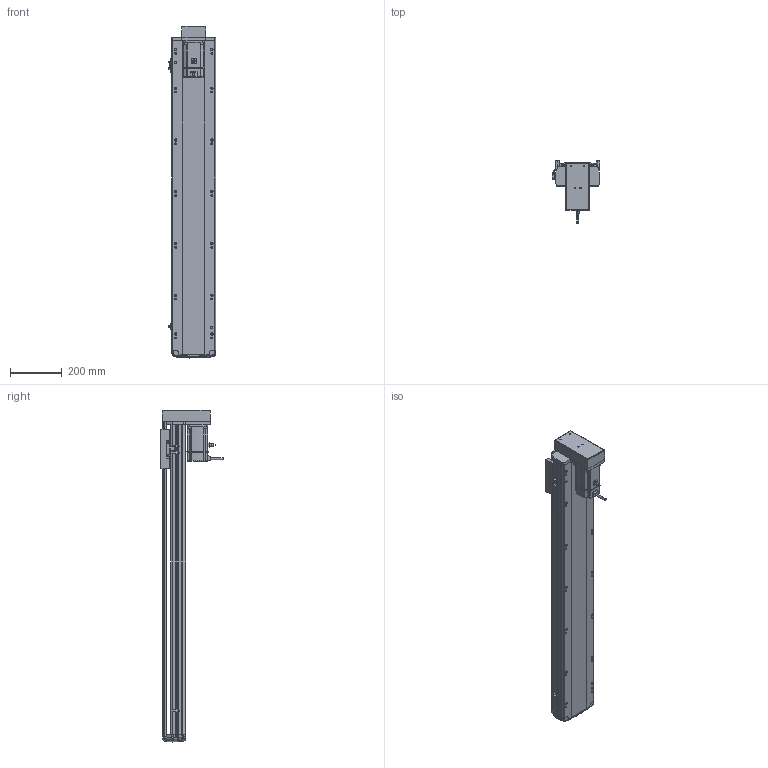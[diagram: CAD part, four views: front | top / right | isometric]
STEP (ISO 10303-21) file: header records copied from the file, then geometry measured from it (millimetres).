
FILE_DESCRIPTION (( 'STEP AP214' ), '1' );
FILE_NAME ('RTH17-XX-1000-M-M75-C4.STEP', '2025-10-24T10:26:52', ( '' ), ( '' ), 'SwSTEP 2.0', 'SolidWorks 2018', '' );
FILE_SCHEMA (( 'AUTOMOTIVE_DESIGN' ));
Length unit declared in the file: millimetre
Products named in the file (10): N_RTH-BL-012 感应片(外置)^RTH17-XX-XX-M-M75-C4（方程式）; N_RTH17-GY-001P^RTH17-XX-XX-M-M75-C4（方程式）; N_OMRON EE-SX672 換覜ん^RTH17-XX-XX-M-M75-C4ㄗ源最宒ㄘ; N_M75^RTH17-XX-XX-M-M75-C4（方程式）; N_RTH17-E-004丝杆螺母连接座^RTH17-XX-XX-M-M75-C4（方程式）; N_RTH17-M-008-P75电机安装板下折750W^RTH17-XX-XX-M-M75-C4（方程式）; N_RTH17-M-018盖子^RTH17-XX-XX-M-M75-C4（方程式）; N_RTH17-M-007上盖^RTH17-XX-XX-M-M75-C4（方程式）; RTH17-XX-1000-M-M75-C4; N_RTH17-M-011底座^RTH17-XX-XX-M-M75-C4（方程式）
Assembly tree (11 placements, depth 2):
  RTH17-XX-1000-M-M75-C4
    N_RTH17-M-011底座^RTH17-XX-XX-M-M75-C4（方程式）
    N_RTH17-M-007上盖^RTH17-XX-XX-M-M75-C4（方程式）
    N_M75^RTH17-XX-XX-M-M75-C4（方程式）
    N_OMRON EE-SX672 換覜ん^RTH17-XX-XX-M-M75-C4ㄗ源最宒ㄘ  x3
    N_RTH-BL-012 感应片(外置)^RTH17-XX-XX-M-M75-C4（方程式）
    N_RTH17-M-008-P75电机安装板下折750W^RTH17-XX-XX-M-M75-C4（方程式）
    N_RTH17-M-018盖子^RTH17-XX-XX-M-M75-C4（方程式）
    N_RTH17-E-004丝杆螺母连接座^RTH17-XX-XX-M-M75-C4（方程式）
    N_RTH17-GY-001P^RTH17-XX-XX-M-M75-C4（方程式）
Bounding box: 183.5 x 240.7 x 1283.19 mm (x, y, z)
Volume: 10274619.8 mm3; surface area: 1411114.5 mm2
Topology: 10 solids, 12 shells, 1773 faces, 4904 edges, 3176 vertices
Faces by surface type: plane 832, cylinder 527, bspline 377, cone 28, torus 9
Entity records: 52103 total; most frequent: CARTESIAN_POINT 20774, ORIENTED_EDGE 6832, DIRECTION 5674, EDGE_CURVE 3420, VERTEX_POINT 2212, AXIS2_PLACEMENT_3D 1915, VECTOR 1844, LINE 1844
